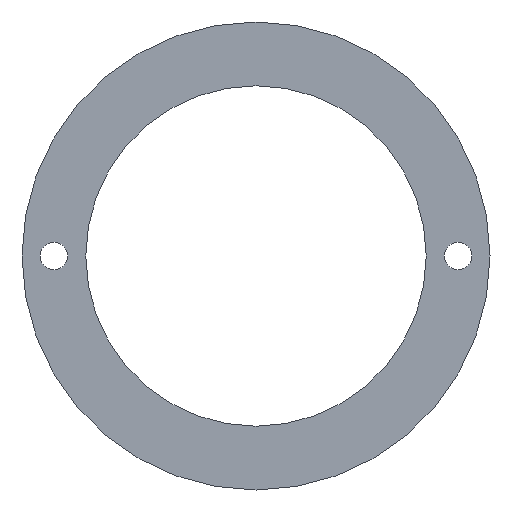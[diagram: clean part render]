
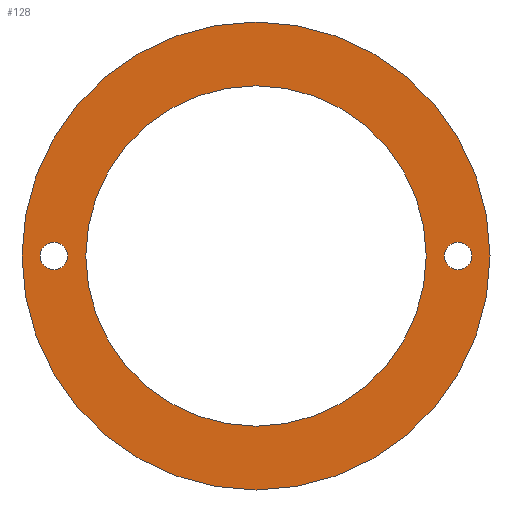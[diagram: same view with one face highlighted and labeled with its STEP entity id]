
A CAD part, front view. The second image highlights one B-rep face of the part: STEP entity #128.
In plain terms, the highlighted planar face has unit normal (0, -1, 0).
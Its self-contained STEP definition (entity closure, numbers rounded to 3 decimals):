
#3 = EDGE_CURVE ( 'NONE', #116, #176, #338, .T. ) ;
#5 = AXIS2_PLACEMENT_3D ( 'NONE', #57, #31, #218 ) ;
#9 = DIRECTION ( 'NONE',  ( 0., 0., 1. ) ) ;
#10 = ORIENTED_EDGE ( 'NONE', *, *, #3, .T. ) ;
#11 = CARTESIAN_POINT ( 'NONE',  ( 0., 0., -40. ) ) ;
#22 = FACE_OUTER_BOUND ( 'NONE', #59, .T. ) ;
#24 = CARTESIAN_POINT ( 'NONE',  ( 0., 0., -55. ) ) ;
#25 = CARTESIAN_POINT ( 'NONE',  ( -47.5, 0., 0. ) ) ;
#31 = DIRECTION ( 'NONE',  ( 0., 1., 0. ) ) ;
#35 = DIRECTION ( 'NONE',  ( 0., 1., 0. ) ) ;
#36 = ORIENTED_EDGE ( 'NONE', *, *, #89, .T. ) ;
#37 = EDGE_CURVE ( 'NONE', #52, #165, #285, .T. ) ;
#43 = VERTEX_POINT ( 'NONE', #283 ) ;
#50 = DIRECTION ( 'NONE',  ( 0., 1., 0. ) ) ;
#52 = VERTEX_POINT ( 'NONE', #11 ) ;
#55 = ORIENTED_EDGE ( 'NONE', *, *, #74, .T. ) ;
#56 = AXIS2_PLACEMENT_3D ( 'NONE', #25, #245, #243 ) ;
#57 = CARTESIAN_POINT ( 'NONE',  ( 47.5, 0., 0. ) ) ;
#59 = EDGE_LOOP ( 'NONE', ( #173, #66 ) ) ;
#63 = EDGE_LOOP ( 'NONE', ( #341, #36 ) ) ;
#66 = ORIENTED_EDGE ( 'NONE', *, *, #282, .F. ) ;
#74 = EDGE_CURVE ( 'NONE', #165, #52, #77, .T. ) ;
#77 = CIRCLE ( 'NONE', #342, 40. ) ;
#78 = CARTESIAN_POINT ( 'NONE',  ( -47.5, 0., 0. ) ) ;
#88 = CARTESIAN_POINT ( 'NONE',  ( 0., 0., 0. ) ) ;
#89 = EDGE_CURVE ( 'NONE', #207, #107, #256, .T. ) ;
#91 = AXIS2_PLACEMENT_3D ( 'NONE', #298, #134, #327 ) ;
#99 = FACE_BOUND ( 'NONE', #140, .T. ) ;
#102 = CARTESIAN_POINT ( 'NONE',  ( 0., 0., 40. ) ) ;
#106 = DIRECTION ( 'NONE',  ( 0., 0., 1. ) ) ;
#107 = VERTEX_POINT ( 'NONE', #117 ) ;
#116 = VERTEX_POINT ( 'NONE', #174 ) ;
#117 = CARTESIAN_POINT ( 'NONE',  ( -47.5, 0., -3.25 ) ) ;
#119 = DIRECTION ( 'NONE',  ( 0., 0., 1. ) ) ;
#125 = EDGE_CURVE ( 'NONE', #176, #116, #241, .T. ) ;
#128 = ADVANCED_FACE ( 'NONE', ( #22, #99, #317, #246 ), #330, .F. ) ;
#134 = DIRECTION ( 'NONE',  ( 0., 1., 0. ) ) ;
#140 = EDGE_LOOP ( 'NONE', ( #288, #55 ) ) ;
#141 = CARTESIAN_POINT ( 'NONE',  ( 47.5, 0., 0. ) ) ;
#145 = EDGE_LOOP ( 'NONE', ( #347, #10 ) ) ;
#146 = CARTESIAN_POINT ( 'NONE',  ( 0., 0., 0. ) ) ;
#161 = DIRECTION ( 'NONE',  ( 0., 1., 0. ) ) ;
#165 = VERTEX_POINT ( 'NONE', #102 ) ;
#173 = ORIENTED_EDGE ( 'NONE', *, *, #340, .F. ) ;
#174 = CARTESIAN_POINT ( 'NONE',  ( 47.5, 0., 3.25 ) ) ;
#176 = VERTEX_POINT ( 'NONE', #319 ) ;
#197 = DIRECTION ( 'NONE',  ( 0., 0., 1. ) ) ;
#199 = AXIS2_PLACEMENT_3D ( 'NONE', #141, #302, #214 ) ;
#201 = CIRCLE ( 'NONE', #277, 55. ) ;
#207 = VERTEX_POINT ( 'NONE', #229 ) ;
#214 = DIRECTION ( 'NONE',  ( 0., 0., 1. ) ) ;
#218 = DIRECTION ( 'NONE',  ( 0., 0., 1. ) ) ;
#224 = CARTESIAN_POINT ( 'NONE',  ( 0., 0., 0. ) ) ;
#229 = CARTESIAN_POINT ( 'NONE',  ( -47.5, 0., 3.25 ) ) ;
#241 = CIRCLE ( 'NONE', #5, 3.25 ) ;
#243 = DIRECTION ( 'NONE',  ( 0., 0., 1. ) ) ;
#245 = DIRECTION ( 'NONE',  ( 0., 1., 0. ) ) ;
#246 = FACE_BOUND ( 'NONE', #145, .T. ) ;
#256 = CIRCLE ( 'NONE', #56, 3.25 ) ;
#268 = DIRECTION ( 'NONE',  ( 0., 1., 0. ) ) ;
#273 = CIRCLE ( 'NONE', #286, 3.25 ) ;
#274 = CIRCLE ( 'NONE', #91, 55. ) ;
#277 = AXIS2_PLACEMENT_3D ( 'NONE', #324, #161, #354 ) ;
#279 = EDGE_CURVE ( 'NONE', #107, #207, #273, .T. ) ;
#282 = EDGE_CURVE ( 'NONE', #43, #346, #201, .T. ) ;
#283 = CARTESIAN_POINT ( 'NONE',  ( 0., 0., 55. ) ) ;
#285 = CIRCLE ( 'NONE', #350, 40. ) ;
#286 = AXIS2_PLACEMENT_3D ( 'NONE', #78, #268, #106 ) ;
#288 = ORIENTED_EDGE ( 'NONE', *, *, #37, .T. ) ;
#293 = AXIS2_PLACEMENT_3D ( 'NONE', #88, #50, #9 ) ;
#298 = CARTESIAN_POINT ( 'NONE',  ( 0., 0., 0. ) ) ;
#302 = DIRECTION ( 'NONE',  ( 0., 1., 0. ) ) ;
#310 = DIRECTION ( 'NONE',  ( 0., 1., 0. ) ) ;
#317 = FACE_BOUND ( 'NONE', #63, .T. ) ;
#319 = CARTESIAN_POINT ( 'NONE',  ( 47.5, 0., -3.25 ) ) ;
#324 = CARTESIAN_POINT ( 'NONE',  ( 0., 0., 0. ) ) ;
#327 = DIRECTION ( 'NONE',  ( 0., 0., 1. ) ) ;
#330 = PLANE ( 'NONE',  #293 ) ;
#338 = CIRCLE ( 'NONE', #199, 3.25 ) ;
#340 = EDGE_CURVE ( 'NONE', #346, #43, #274, .T. ) ;
#341 = ORIENTED_EDGE ( 'NONE', *, *, #279, .T. ) ;
#342 = AXIS2_PLACEMENT_3D ( 'NONE', #146, #310, #119 ) ;
#346 = VERTEX_POINT ( 'NONE', #24 ) ;
#347 = ORIENTED_EDGE ( 'NONE', *, *, #125, .T. ) ;
#350 = AXIS2_PLACEMENT_3D ( 'NONE', #224, #35, #197 ) ;
#354 = DIRECTION ( 'NONE',  ( 0., 0., 1. ) ) ;
